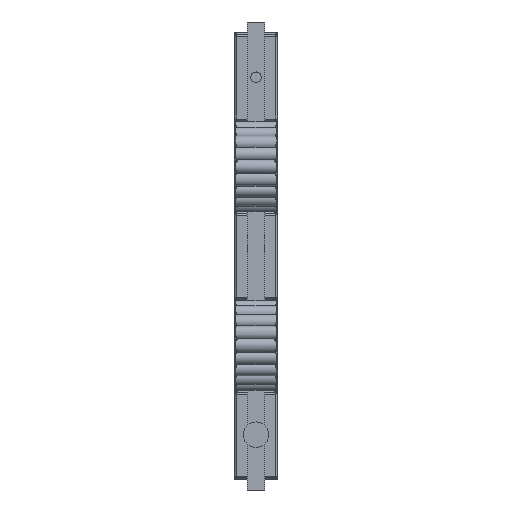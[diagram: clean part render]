
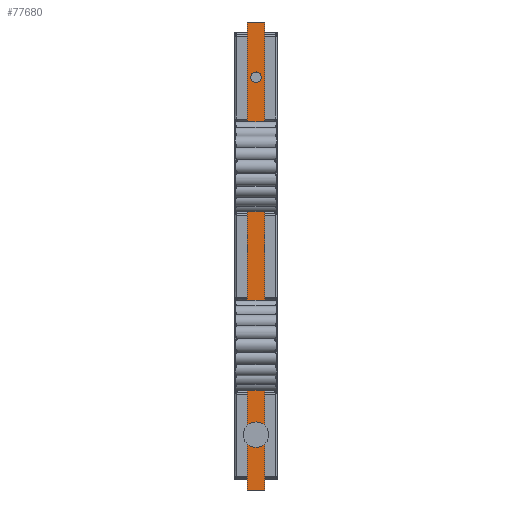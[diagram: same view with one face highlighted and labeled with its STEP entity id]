
A CAD part, front view. The second image highlights one B-rep face of the part: STEP entity #77680.
In plain terms, the highlighted planar face has unit normal (0, -1, 0).
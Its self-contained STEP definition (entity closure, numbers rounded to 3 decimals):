
#732 = DIRECTION ( 'NONE',  ( 0., 0., 1. ) ) ;
#1108 = EDGE_LOOP ( 'NONE', ( #60081, #14884 ) ) ;
#3943 = ORIENTED_EDGE ( 'NONE', *, *, #34722, .T. ) ;
#4267 = EDGE_CURVE ( 'NONE', #36194, #8345, #79972, .T. ) ;
#5290 = VECTOR ( 'NONE', #75703, 1000. ) ;
#5943 = DIRECTION ( 'NONE',  ( 0., 0., 1. ) ) ;
#6881 = FACE_BOUND ( 'NONE', #1108, .T. ) ;
#8345 = VERTEX_POINT ( 'NONE', #20776 ) ;
#10653 = DIRECTION ( 'NONE',  ( 1., 0., 0. ) ) ;
#10945 = VECTOR ( 'NONE', #12043, 1000. ) ;
#11785 = DIRECTION ( 'NONE',  ( 0., 1., 0. ) ) ;
#12043 = DIRECTION ( 'NONE',  ( 0., 0., -1. ) ) ;
#12121 = EDGE_CURVE ( 'NONE', #62470, #48157, #65909, .T. ) ;
#12747 = CARTESIAN_POINT ( 'NONE',  ( -186.394, 577.54, 1680. ) ) ;
#13477 = CARTESIAN_POINT ( 'NONE',  ( -146.394, 577.54, 1680. ) ) ;
#14047 = AXIS2_PLACEMENT_3D ( 'NONE', #73514, #14826, #732 ) ;
#14826 = DIRECTION ( 'NONE',  ( 0., 1., 0. ) ) ;
#14828 = ORIENTED_EDGE ( 'NONE', *, *, #70004, .T. ) ;
#14884 = ORIENTED_EDGE ( 'NONE', *, *, #35856, .T. ) ;
#15961 = DIRECTION ( 'NONE',  ( 0., 1., 0. ) ) ;
#17706 = PLANE ( 'NONE',  #82464 ) ;
#19259 = CARTESIAN_POINT ( 'NONE',  ( -166.394, 577.54, 1348. ) ) ;
#20776 = CARTESIAN_POINT ( 'NONE',  ( -186.394, 577.54, 580. ) ) ;
#22261 = FACE_OUTER_BOUND ( 'NONE', #44881, .T. ) ;
#23622 = CIRCLE ( 'NONE', #14047, 8. ) ;
#28667 = VERTEX_POINT ( 'NONE', #66680 ) ;
#29106 = CARTESIAN_POINT ( 'NONE',  ( -166.394, 577.54, 920. ) ) ;
#31867 = EDGE_CURVE ( 'NONE', #33711, #28667, #84079, .T. ) ;
#32324 = DIRECTION ( 'NONE',  ( 0., 1., 0. ) ) ;
#33318 = LINE ( 'NONE', #75988, #70433 ) ;
#33711 = VERTEX_POINT ( 'NONE', #19259 ) ;
#34722 = EDGE_CURVE ( 'NONE', #8345, #48157, #36070, .T. ) ;
#35856 = EDGE_CURVE ( 'NONE', #53194, #58569, #45823, .T. ) ;
#36070 = LINE ( 'NONE', #62681, #5290 ) ;
#36194 = VERTEX_POINT ( 'NONE', #12747 ) ;
#38369 = CARTESIAN_POINT ( 'NONE',  ( -186.394, 577.54, 1680. ) ) ;
#38452 = CARTESIAN_POINT ( 'NONE',  ( -186.394, 577.54, 1680. ) ) ;
#40024 = DIRECTION ( 'NONE',  ( 0., 0., 1. ) ) ;
#40589 = CARTESIAN_POINT ( 'NONE',  ( -166.394, 577.54, 920. ) ) ;
#40800 = FACE_BOUND ( 'NONE', #54908, .T. ) ;
#44730 = CARTESIAN_POINT ( 'NONE',  ( -166.394, 577.54, 928. ) ) ;
#44881 = EDGE_LOOP ( 'NONE', ( #3943, #74356, #81147, #82240 ) ) ;
#45823 = CIRCLE ( 'NONE', #47739, 8. ) ;
#47739 = AXIS2_PLACEMENT_3D ( 'NONE', #29106, #15961, #68598 ) ;
#47833 = CARTESIAN_POINT ( 'NONE',  ( -146.394, 577.54, 1680. ) ) ;
#48157 = VERTEX_POINT ( 'NONE', #56980 ) ;
#48394 = VECTOR ( 'NONE', #80986, 1000. ) ;
#50313 = CARTESIAN_POINT ( 'NONE',  ( -166.394, 577.54, 1340. ) ) ;
#53194 = VERTEX_POINT ( 'NONE', #77595 ) ;
#54547 = ORIENTED_EDGE ( 'NONE', *, *, #31867, .T. ) ;
#54908 = EDGE_LOOP ( 'NONE', ( #54547, #14828 ) ) ;
#56980 = CARTESIAN_POINT ( 'NONE',  ( -146.394, 577.54, 580. ) ) ;
#58569 = VERTEX_POINT ( 'NONE', #44730 ) ;
#59909 = DIRECTION ( 'NONE',  ( 0., 1., 0. ) ) ;
#60081 = ORIENTED_EDGE ( 'NONE', *, *, #71616, .T. ) ;
#62122 = AXIS2_PLACEMENT_3D ( 'NONE', #40589, #59909, #40024 ) ;
#62470 = VERTEX_POINT ( 'NONE', #13477 ) ;
#62681 = CARTESIAN_POINT ( 'NONE',  ( -186.394, 577.54, 580. ) ) ;
#63812 = AXIS2_PLACEMENT_3D ( 'NONE', #50313, #11785, #77129 ) ;
#65515 = CIRCLE ( 'NONE', #62122, 8. ) ;
#65909 = LINE ( 'NONE', #47833, #48394 ) ;
#66680 = CARTESIAN_POINT ( 'NONE',  ( -166.394, 577.54, 1332. ) ) ;
#67746 = EDGE_CURVE ( 'NONE', #36194, #62470, #33318, .T. ) ;
#68598 = DIRECTION ( 'NONE',  ( 0., 0., 1. ) ) ;
#70004 = EDGE_CURVE ( 'NONE', #28667, #33711, #23622, .T. ) ;
#70433 = VECTOR ( 'NONE', #10653, 1000. ) ;
#71616 = EDGE_CURVE ( 'NONE', #58569, #53194, #65515, .T. ) ;
#73514 = CARTESIAN_POINT ( 'NONE',  ( -166.394, 577.54, 1340. ) ) ;
#74356 = ORIENTED_EDGE ( 'NONE', *, *, #12121, .F. ) ;
#75703 = DIRECTION ( 'NONE',  ( 1., 0., 0. ) ) ;
#75988 = CARTESIAN_POINT ( 'NONE',  ( -186.394, 577.54, 1680. ) ) ;
#77129 = DIRECTION ( 'NONE',  ( 0., 0., 1. ) ) ;
#77595 = CARTESIAN_POINT ( 'NONE',  ( -166.394, 577.54, 912. ) ) ;
#77680 = ADVANCED_FACE ( 'NONE', ( #6881, #40800, #22261 ), #17706, .F. ) ;
#79972 = LINE ( 'NONE', #38452, #10945 ) ;
#80986 = DIRECTION ( 'NONE',  ( 0., 0., -1. ) ) ;
#81147 = ORIENTED_EDGE ( 'NONE', *, *, #67746, .F. ) ;
#82240 = ORIENTED_EDGE ( 'NONE', *, *, #4267, .T. ) ;
#82464 = AXIS2_PLACEMENT_3D ( 'NONE', #38369, #32324, #5943 ) ;
#84079 = CIRCLE ( 'NONE', #63812, 8. ) ;
